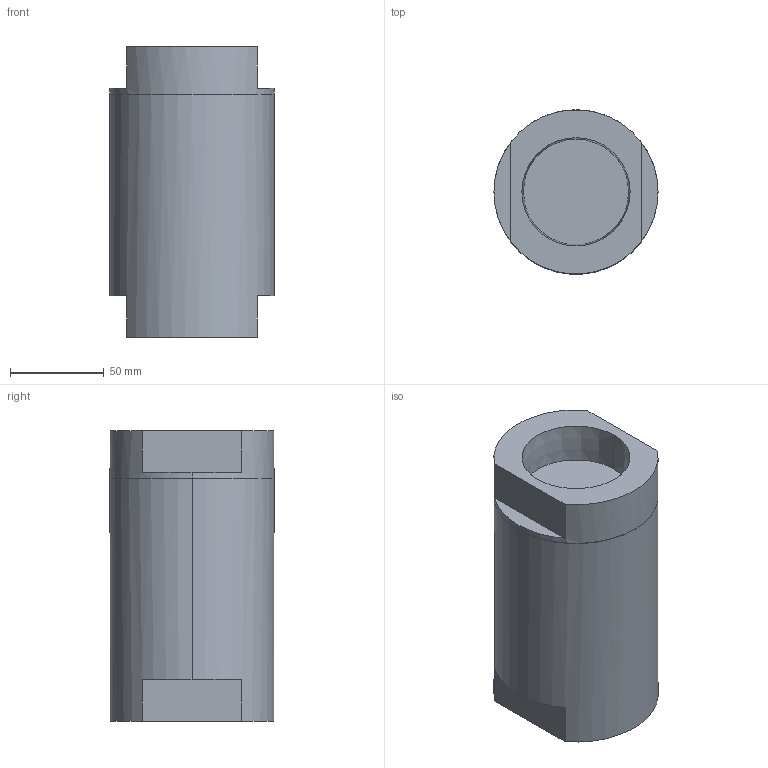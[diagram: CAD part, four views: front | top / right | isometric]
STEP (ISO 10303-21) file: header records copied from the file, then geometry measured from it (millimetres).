
FILE_DESCRIPTION (( 'STEP AP203' ), '1' );
FILE_NAME ('CV-2000B-__-__.STEP', '2011-11-04T21:14:35', ( 'Tim' ), ( 'Microsoft' ), 'SwSTEP 2.0', 'SolidWorks 2011', '' );
FILE_SCHEMA (( 'CONFIG_CONTROL_DESIGN' ));
Length unit declared in the file: inch
Products named in the file (1): CV-2000B-__-__
Bounding box: 87.5 x 87.5 x 154.94 mm (x, y, z)
Volume: 792548.6 mm3; surface area: 61911.9 mm2
Topology: 1 solids, 1 shells, 24 faces, 54 edges, 36 vertices
Faces by surface type: plane 14, cylinder 6, cone 4
Entity records: 765 total; most frequent: DIRECTION 132, CARTESIAN_POINT 115, ORIENTED_EDGE 108, EDGE_CURVE 54, AXIS2_PLACEMENT_3D 53, VERTEX_POINT 36, EDGE_LOOP 28, CIRCLE 28
